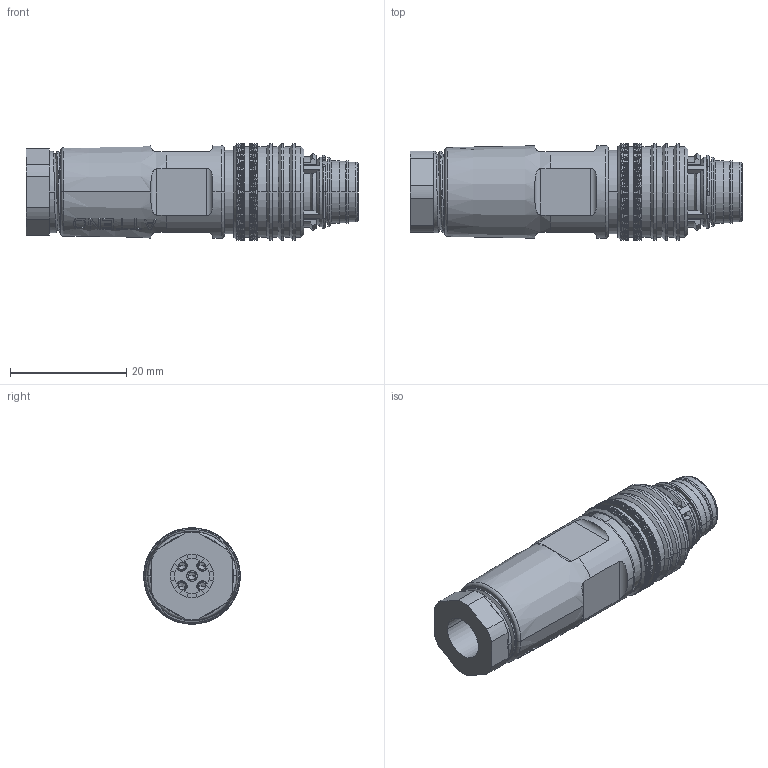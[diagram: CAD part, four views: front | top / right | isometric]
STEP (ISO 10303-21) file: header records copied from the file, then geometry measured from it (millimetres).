
FILE_DESCRIPTION((''),'2;1');
FILE_NAME('3D_DRAWING_ASM_ASM','2025-12-24T',('fros.liao'),(''),'CREO PARAMETRIC BY PTC INC, 2018360','CREO PARAMETRIC BY PTC INC, 2018360','');
FILE_SCHEMA(('AUTOMOTIVE_DESIGN { 1 0 10303 214 1 1 1 1 }'));
Products named in the file (22): SHIELD_NUT_17_1_1_1; PLASTIC_STRAPS_14_1_1_1; RUBBER_STRAPS_14_1_1_1; BACK_PLUG_15_1_1_1; BODY_11_1_1_1; ORING_PUSHPULL_6_1_1_1; THREAD_SLEEVE_ASM_23_ASM_1_ASM__ASM; MSBR-11_1_1_1_1; MSBR-10_1_1_1_1; MSBR-9_1_1_1_1; MSBR-8_1_1_1_1; MSBR-7_1_1_1_1; MSBR-6_1_1_1_1; MSBR-5_1_1_1_1; MSBR-4_1_1_1_1; MSBR-3_1_1_1_1; MSBR-2_1_1_1_1; MSBR-1_1_1_1_1; 216A-05M01_ASM_1_ASM_1_ASM; 216A-05M01_C_1_ASM_1_ASM; 3D_DRAWING_ASM_3_ASM; 3D_DRAWING_ASM_ASM
Assembly tree (21 placements, depth 5):
  3D_DRAWING_ASM_ASM
    3D_DRAWING_ASM_3_ASM
      THREAD_SLEEVE_ASM_23_ASM_1_ASM__ASM
        SHIELD_NUT_17_1_1_1
        PLASTIC_STRAPS_14_1_1_1
        RUBBER_STRAPS_14_1_1_1
        BACK_PLUG_15_1_1_1
        BODY_11_1_1_1
        ORING_PUSHPULL_6_1_1_1
      216A-05M01_C_1_ASM_1_ASM
        216A-05M01_ASM_1_ASM_1_ASM
          MSBR-11_1_1_1_1
          MSBR-10_1_1_1_1
          MSBR-9_1_1_1_1
          MSBR-8_1_1_1_1
          MSBR-7_1_1_1_1
          MSBR-6_1_1_1_1
          MSBR-5_1_1_1_1
          MSBR-4_1_1_1_1
          MSBR-3_1_1_1_1
          MSBR-2_1_1_1_1
          MSBR-1_1_1_1_1
Bounding box: 57.15 x 16.6 x 16.6 mm (x, y, z)
Volume: 6775 mm3; surface area: 11882.7 mm2
Topology: 17 solids, 17 shells, 2051 faces, 4850 edges, 2860 vertices
Faces by surface type: bspline 1033, cylinder 560, plane 255, cone 137, torus 56, sphere 10
Entity records: 107307 total; most frequent: CARTESIAN_POINT 52413, ORIENTED_EDGE 9660, DIRECTION 5325, EDGE_CURVE 4830, PRESENTATION_STYLE_ASSIGNMENT 4621, STYLED_ITEM 4621, CURVE_STYLE 4432, VERTEX_POINT 2860
